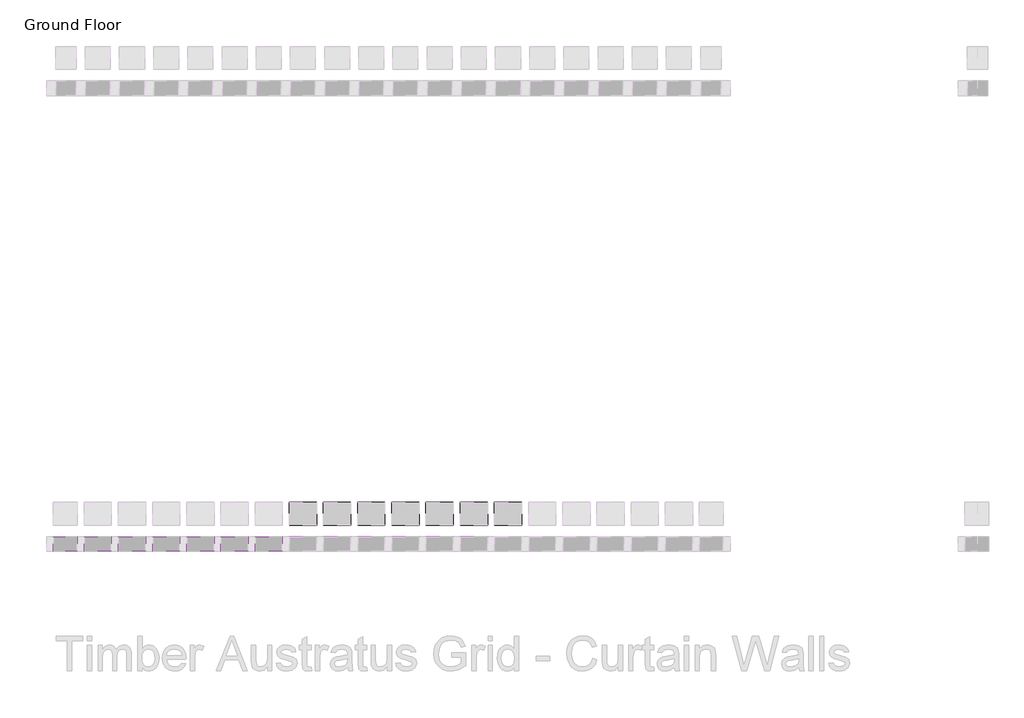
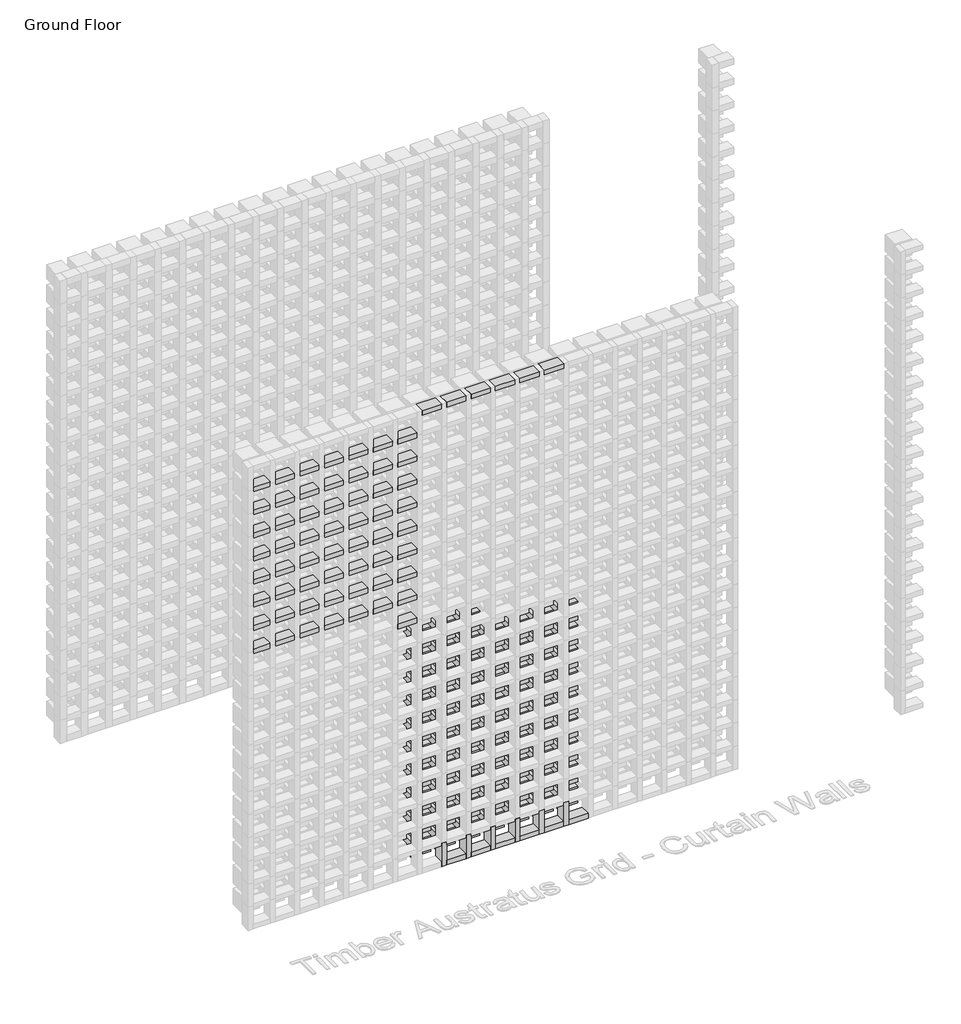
# One storey, part 49 of 350: 75 members, 66 plates.
"""IFC4 building model written with IfcOpenShell, lengths in millimetres."""

from ifc_helpers import new_model, si_unit, origin, place, context, project, spatial, transform, mapped, element, save
from components import rectangular_mullion_1c916715, rectangular_mullion_5b501421, rectangular_mullion_51467dcc, rectangular_mullion_d4c9a775, rectangular_mullion_e9e2e2fa, empty_system_panel_empty_a57e421f, empty_system_panel_empty_fe50b430

model = new_model("IFC4")

# Units and contexts
model_context = context("Model", 3, world=origin())
ifc_project = project(units=[si_unit("LENGTHUNIT", "METRE", prefix="MILLI")], contexts=[model_context])

# Site, building, storey
site = spatial("IfcSite", under=ifc_project)
building = spatial("IfcBuilding", under=site)
storey = spatial("IfcBuildingStorey", under=building, Name="Ground Floor", Elevation=0.0)

# Members
placement = place(None, origin())
rectangular_mullion_shape = rectangular_mullion_1c916715(model_context)
element("IfcMember", 1, ObjectType="Rectangular Mullion : Batten_Timber_Modinex_Austratus_Grid_Fascia_30x65_AlaskanYellowCedar", at=placement, inside=storey, context=model_context, shape_type="MappedRepresentation", body=[
    mapped(rectangular_mullion_shape, transform((2951.4361642, 38968.2978302, 1650.0), x_axis=(0.0, 0.0, 1.0), y_axis=(0.0, -1.0, 0.0), z_axis=(1.0, 0.0, 0.0))),
])
element("IfcMember", 2, ObjectType="Rectangular Mullion : Batten_Timber_Modinex_Austratus_Grid_Fascia_30x65_AlaskanYellowCedar", at=placement, inside=storey, context=model_context, shape_type="MappedRepresentation", body=[
    mapped(rectangular_mullion_shape, transform((2201.4361642, 38968.2978302, 1800.0), x_axis=(0.0, 0.0, 1.0), y_axis=(0.0, -1.0, 0.0), z_axis=(1.0, 0.0, 0.0))),
])
element("IfcMember", 3, ObjectType="Rectangular Mullion : Batten_Timber_Modinex_Austratus_Grid_Fascia_30x65_AlaskanYellowCedar", at=placement, inside=storey, context=model_context, shape_type="MappedRepresentation", body=[
    mapped(rectangular_mullion_shape, transform((2351.4361642, 38968.2978302, 1800.0), x_axis=(0.0, 0.0, 1.0), y_axis=(0.0, -1.0, 0.0), z_axis=(1.0, 0.0, 0.0))),
])
element("IfcMember", 4, ObjectType="Rectangular Mullion : Batten_Timber_Modinex_Austratus_Grid_Fascia_30x65_AlaskanYellowCedar", at=placement, inside=storey, context=model_context, shape_type="MappedRepresentation", body=[
    mapped(rectangular_mullion_shape, transform((2501.4361642, 38968.2978302, 1800.0), x_axis=(0.0, 0.0, 1.0), y_axis=(0.0, -1.0, 0.0), z_axis=(1.0, 0.0, 0.0))),
])
element("IfcMember", 5, ObjectType="Rectangular Mullion : Batten_Timber_Modinex_Austratus_Grid_Fascia_30x65_AlaskanYellowCedar", at=placement, inside=storey, context=model_context, shape_type="MappedRepresentation", body=[
    mapped(rectangular_mullion_shape, transform((2651.4361642, 38968.2978302, 1800.0), x_axis=(0.0, 0.0, 1.0), y_axis=(0.0, -1.0, 0.0), z_axis=(1.0, 0.0, 0.0))),
])
element("IfcMember", 6, ObjectType="Rectangular Mullion : Batten_Timber_Modinex_Austratus_Grid_Fascia_30x65_AlaskanYellowCedar", at=placement, inside=storey, context=model_context, shape_type="MappedRepresentation", body=[
    mapped(rectangular_mullion_shape, transform((2801.4361642, 38968.2978302, 1800.0), x_axis=(0.0, 0.0, 1.0), y_axis=(0.0, -1.0, 0.0), z_axis=(1.0, 0.0, 0.0))),
])
element("IfcMember", 7, ObjectType="Rectangular Mullion : Batten_Timber_Modinex_Austratus_Grid_Fascia_30x65_AlaskanYellowCedar", at=placement, inside=storey, context=model_context, shape_type="MappedRepresentation", body=[
    mapped(rectangular_mullion_shape, transform((2951.4361642, 38968.2978302, 1800.0), x_axis=(0.0, 0.0, 1.0), y_axis=(0.0, -1.0, 0.0), z_axis=(1.0, 0.0, 0.0))),
])
element("IfcMember", 8, ObjectType="Rectangular Mullion : Batten_Timber_Modinex_Austratus_Grid_Fascia_30x65_AlaskanYellowCedar", at=placement, inside=storey, context=model_context, shape_type="MappedRepresentation", body=[
    mapped(rectangular_mullion_shape, transform((2201.4361642, 38968.2978302, 1950.0), x_axis=(0.0, 0.0, 1.0), y_axis=(0.0, -1.0, 0.0), z_axis=(1.0, 0.0, 0.0))),
])
element("IfcMember", 9, ObjectType="Rectangular Mullion : Batten_Timber_Modinex_Austratus_Grid_Fascia_30x65_AlaskanYellowCedar", at=placement, inside=storey, context=model_context, shape_type="MappedRepresentation", body=[
    mapped(rectangular_mullion_shape, transform((2351.4361642, 38968.2978302, 1950.0), x_axis=(0.0, 0.0, 1.0), y_axis=(0.0, -1.0, 0.0), z_axis=(1.0, 0.0, 0.0))),
])
element("IfcMember", 10, ObjectType="Rectangular Mullion : Batten_Timber_Modinex_Austratus_Grid_Fascia_30x65_AlaskanYellowCedar", at=placement, inside=storey, context=model_context, shape_type="MappedRepresentation", body=[
    mapped(rectangular_mullion_shape, transform((2501.4361642, 38968.2978302, 1950.0), x_axis=(0.0, 0.0, 1.0), y_axis=(0.0, -1.0, 0.0), z_axis=(1.0, 0.0, 0.0))),
])
element("IfcMember", 11, ObjectType="Rectangular Mullion : Batten_Timber_Modinex_Austratus_Grid_Fascia_30x65_AlaskanYellowCedar", at=placement, inside=storey, context=model_context, shape_type="MappedRepresentation", body=[
    mapped(rectangular_mullion_shape, transform((2651.4361642, 38968.2978302, 1950.0), x_axis=(0.0, 0.0, 1.0), y_axis=(0.0, -1.0, 0.0), z_axis=(1.0, 0.0, 0.0))),
])
element("IfcMember", 12, ObjectType="Rectangular Mullion : Batten_Timber_Modinex_Austratus_Grid_Fascia_30x65_AlaskanYellowCedar", at=placement, inside=storey, context=model_context, shape_type="MappedRepresentation", body=[
    mapped(rectangular_mullion_shape, transform((2801.4361642, 38968.2978302, 1950.0), x_axis=(0.0, 0.0, 1.0), y_axis=(0.0, -1.0, 0.0), z_axis=(1.0, 0.0, 0.0))),
])
element("IfcMember", 13, ObjectType="Rectangular Mullion : Batten_Timber_Modinex_Austratus_Grid_Fascia_30x65_AlaskanYellowCedar", at=placement, inside=storey, context=model_context, shape_type="MappedRepresentation", body=[
    mapped(rectangular_mullion_shape, transform((2951.4361642, 38968.2978302, 1950.0), x_axis=(0.0, 0.0, 1.0), y_axis=(0.0, -1.0, 0.0), z_axis=(1.0, 0.0, 0.0))),
])
element("IfcMember", 14, ObjectType="Rectangular Mullion : Batten_Timber_Modinex_Austratus_Grid_Fascia_30x65_AlaskanYellowCedar", at=placement, inside=storey, context=model_context, shape_type="MappedRepresentation", body=[
    mapped(rectangular_mullion_shape, transform((2201.4361642, 38968.2978302, 2100.0), x_axis=(0.0, 0.0, 1.0), y_axis=(0.0, -1.0, 0.0), z_axis=(1.0, 0.0, 0.0))),
])
element("IfcMember", 15, ObjectType="Rectangular Mullion : Batten_Timber_Modinex_Austratus_Grid_Fascia_30x65_AlaskanYellowCedar", at=placement, inside=storey, context=model_context, shape_type="MappedRepresentation", body=[
    mapped(rectangular_mullion_shape, transform((2351.4361642, 38968.2978302, 2100.0), x_axis=(0.0, 0.0, 1.0), y_axis=(0.0, -1.0, 0.0), z_axis=(1.0, 0.0, 0.0))),
])
element("IfcMember", 16, ObjectType="Rectangular Mullion : Batten_Timber_Modinex_Austratus_Grid_Fascia_30x65_AlaskanYellowCedar", at=placement, inside=storey, context=model_context, shape_type="MappedRepresentation", body=[
    mapped(rectangular_mullion_shape, transform((2501.4361642, 38968.2978302, 2100.0), x_axis=(0.0, 0.0, 1.0), y_axis=(0.0, -1.0, 0.0), z_axis=(1.0, 0.0, 0.0))),
])
element("IfcMember", 17, ObjectType="Rectangular Mullion : Batten_Timber_Modinex_Austratus_Grid_Fascia_30x65_AlaskanYellowCedar", at=placement, inside=storey, context=model_context, shape_type="MappedRepresentation", body=[
    mapped(rectangular_mullion_shape, transform((2651.4361642, 38968.2978302, 2100.0), x_axis=(0.0, 0.0, 1.0), y_axis=(0.0, -1.0, 0.0), z_axis=(1.0, 0.0, 0.0))),
])
element("IfcMember", 18, ObjectType="Rectangular Mullion : Batten_Timber_Modinex_Austratus_Grid_Fascia_30x65_AlaskanYellowCedar", at=placement, inside=storey, context=model_context, shape_type="MappedRepresentation", body=[
    mapped(rectangular_mullion_shape, transform((2801.4361642, 38968.2978302, 2100.0), x_axis=(0.0, 0.0, 1.0), y_axis=(0.0, -1.0, 0.0), z_axis=(1.0, 0.0, 0.0))),
])
element("IfcMember", 19, ObjectType="Rectangular Mullion : Batten_Timber_Modinex_Austratus_Grid_Fascia_30x65_AlaskanYellowCedar", at=placement, inside=storey, context=model_context, shape_type="MappedRepresentation", body=[
    mapped(rectangular_mullion_shape, transform((2951.4361642, 38968.2978302, 2100.0), x_axis=(0.0, 0.0, 1.0), y_axis=(0.0, -1.0, 0.0), z_axis=(1.0, 0.0, 0.0))),
])
element("IfcMember", 20, ObjectType="Rectangular Mullion : Batten_Timber_Modinex_Austratus_Grid_Fascia_30x65_AlaskanYellowCedar", at=placement, inside=storey, context=model_context, shape_type="MappedRepresentation", body=[
    mapped(rectangular_mullion_shape, transform((2201.4361642, 38968.2978302, 2250.0), x_axis=(0.0, 0.0, 1.0), y_axis=(0.0, -1.0, 0.0), z_axis=(1.0, 0.0, 0.0))),
])
element("IfcMember", 21, ObjectType="Rectangular Mullion : Batten_Timber_Modinex_Austratus_Grid_Fascia_30x65_AlaskanYellowCedar", at=placement, inside=storey, context=model_context, shape_type="MappedRepresentation", body=[
    mapped(rectangular_mullion_shape, transform((2351.4361642, 38968.2978302, 2250.0), x_axis=(0.0, 0.0, 1.0), y_axis=(0.0, -1.0, 0.0), z_axis=(1.0, 0.0, 0.0))),
])
element("IfcMember", 22, ObjectType="Rectangular Mullion : Batten_Timber_Modinex_Austratus_Grid_Fascia_30x65_AlaskanYellowCedar", at=placement, inside=storey, context=model_context, shape_type="MappedRepresentation", body=[
    mapped(rectangular_mullion_shape, transform((2501.4361642, 38968.2978302, 2250.0), x_axis=(0.0, 0.0, 1.0), y_axis=(0.0, -1.0, 0.0), z_axis=(1.0, 0.0, 0.0))),
])
element("IfcMember", 23, ObjectType="Rectangular Mullion : Batten_Timber_Modinex_Austratus_Grid_Fascia_30x65_AlaskanYellowCedar", at=placement, inside=storey, context=model_context, shape_type="MappedRepresentation", body=[
    mapped(rectangular_mullion_shape, transform((2651.4361642, 38968.2978302, 2250.0), x_axis=(0.0, 0.0, 1.0), y_axis=(0.0, -1.0, 0.0), z_axis=(1.0, 0.0, 0.0))),
])
element("IfcMember", 24, ObjectType="Rectangular Mullion : Batten_Timber_Modinex_Austratus_Grid_Fascia_30x65_AlaskanYellowCedar", at=placement, inside=storey, context=model_context, shape_type="MappedRepresentation", body=[
    mapped(rectangular_mullion_shape, transform((2801.4361642, 38968.2978302, 2250.0), x_axis=(0.0, 0.0, 1.0), y_axis=(0.0, -1.0, 0.0), z_axis=(1.0, 0.0, 0.0))),
])
element("IfcMember", 25, ObjectType="Rectangular Mullion : Batten_Timber_Modinex_Austratus_Grid_Fascia_30x65_AlaskanYellowCedar", at=placement, inside=storey, context=model_context, shape_type="MappedRepresentation", body=[
    mapped(rectangular_mullion_shape, transform((2951.4361642, 38968.2978302, 2250.0), x_axis=(0.0, 0.0, 1.0), y_axis=(0.0, -1.0, 0.0), z_axis=(1.0, 0.0, 0.0))),
])
element("IfcMember", 26, ObjectType="Rectangular Mullion : Batten_Timber_Modinex_Austratus_Grid_Fascia_30x65_AlaskanYellowCedar", at=placement, inside=storey, context=model_context, shape_type="MappedRepresentation", body=[
    mapped(rectangular_mullion_shape, transform((2201.4361642, 38968.2978302, 2400.0), x_axis=(0.0, 0.0, 1.0), y_axis=(0.0, -1.0, 0.0), z_axis=(1.0, 0.0, 0.0))),
])
element("IfcMember", 27, ObjectType="Rectangular Mullion : Batten_Timber_Modinex_Austratus_Grid_Fascia_30x65_AlaskanYellowCedar", at=placement, inside=storey, context=model_context, shape_type="MappedRepresentation", body=[
    mapped(rectangular_mullion_shape, transform((2351.4361642, 38968.2978302, 2400.0), x_axis=(0.0, 0.0, 1.0), y_axis=(0.0, -1.0, 0.0), z_axis=(1.0, 0.0, 0.0))),
])
element("IfcMember", 28, ObjectType="Rectangular Mullion : Batten_Timber_Modinex_Austratus_Grid_Fascia_30x65_AlaskanYellowCedar", at=placement, inside=storey, context=model_context, shape_type="MappedRepresentation", body=[
    mapped(rectangular_mullion_shape, transform((2501.4361642, 38968.2978302, 2400.0), x_axis=(0.0, 0.0, 1.0), y_axis=(0.0, -1.0, 0.0), z_axis=(1.0, 0.0, 0.0))),
])
element("IfcMember", 29, ObjectType="Rectangular Mullion : Batten_Timber_Modinex_Austratus_Grid_Fascia_30x65_AlaskanYellowCedar", at=placement, inside=storey, context=model_context, shape_type="MappedRepresentation", body=[
    mapped(rectangular_mullion_shape, transform((2651.4361642, 38968.2978302, 2400.0), x_axis=(0.0, 0.0, 1.0), y_axis=(0.0, -1.0, 0.0), z_axis=(1.0, 0.0, 0.0))),
])
element("IfcMember", 30, ObjectType="Rectangular Mullion : Batten_Timber_Modinex_Austratus_Grid_Fascia_30x65_AlaskanYellowCedar", at=placement, inside=storey, context=model_context, shape_type="MappedRepresentation", body=[
    mapped(rectangular_mullion_shape, transform((2801.4361642, 38968.2978302, 2400.0), x_axis=(0.0, 0.0, 1.0), y_axis=(0.0, -1.0, 0.0), z_axis=(1.0, 0.0, 0.0))),
])
element("IfcMember", 31, ObjectType="Rectangular Mullion : Batten_Timber_Modinex_Austratus_Grid_Fascia_30x65_AlaskanYellowCedar", at=placement, inside=storey, context=model_context, shape_type="MappedRepresentation", body=[
    mapped(rectangular_mullion_shape, transform((2951.4361642, 38968.2978302, 2400.0), x_axis=(0.0, 0.0, 1.0), y_axis=(0.0, -1.0, 0.0), z_axis=(1.0, 0.0, 0.0))),
])
element("IfcMember", 32, ObjectType="Rectangular Mullion : Batten_Timber_Modinex_Austratus_Grid_Fascia_30x65_AlaskanYellowCedar", at=placement, inside=storey, context=model_context, shape_type="MappedRepresentation", body=[
    mapped(rectangular_mullion_shape, transform((2201.4361642, 38968.2978302, 2550.0), x_axis=(0.0, 0.0, 1.0), y_axis=(0.0, -1.0, 0.0), z_axis=(1.0, 0.0, 0.0))),
])
element("IfcMember", 33, ObjectType="Rectangular Mullion : Batten_Timber_Modinex_Austratus_Grid_Fascia_30x65_AlaskanYellowCedar", at=placement, inside=storey, context=model_context, shape_type="MappedRepresentation", body=[
    mapped(rectangular_mullion_shape, transform((2351.4361642, 38968.2978302, 2550.0), x_axis=(0.0, 0.0, 1.0), y_axis=(0.0, -1.0, 0.0), z_axis=(1.0, 0.0, 0.0))),
])
element("IfcMember", 34, ObjectType="Rectangular Mullion : Batten_Timber_Modinex_Austratus_Grid_Fascia_30x65_AlaskanYellowCedar", at=placement, inside=storey, context=model_context, shape_type="MappedRepresentation", body=[
    mapped(rectangular_mullion_shape, transform((2501.4361642, 38968.2978302, 2550.0), x_axis=(0.0, 0.0, 1.0), y_axis=(0.0, -1.0, 0.0), z_axis=(1.0, 0.0, 0.0))),
])
element("IfcMember", 35, ObjectType="Rectangular Mullion : Batten_Timber_Modinex_Austratus_Grid_Fascia_30x65_AlaskanYellowCedar", at=placement, inside=storey, context=model_context, shape_type="MappedRepresentation", body=[
    mapped(rectangular_mullion_shape, transform((2651.4361642, 38968.2978302, 2550.0), x_axis=(0.0, 0.0, 1.0), y_axis=(0.0, -1.0, 0.0), z_axis=(1.0, 0.0, 0.0))),
])
element("IfcMember", 36, ObjectType="Rectangular Mullion : Batten_Timber_Modinex_Austratus_Grid_Fascia_30x65_AlaskanYellowCedar", at=placement, inside=storey, context=model_context, shape_type="MappedRepresentation", body=[
    mapped(rectangular_mullion_shape, transform((2801.4361642, 38968.2978302, 2550.0), x_axis=(0.0, 0.0, 1.0), y_axis=(0.0, -1.0, 0.0), z_axis=(1.0, 0.0, 0.0))),
])
element("IfcMember", 37, ObjectType="Rectangular Mullion : Batten_Timber_Modinex_Austratus_Grid_Fascia_30x65_AlaskanYellowCedar", at=placement, inside=storey, context=model_context, shape_type="MappedRepresentation", body=[
    mapped(rectangular_mullion_shape, transform((2951.4361642, 38968.2978302, 2550.0), x_axis=(0.0, 0.0, 1.0), y_axis=(0.0, -1.0, 0.0), z_axis=(1.0, 0.0, 0.0))),
])
element("IfcMember", 38, ObjectType="Rectangular Mullion : Batten_Timber_Modinex_Austratus_Grid_Fascia_30x65_AlaskanYellowCedar", at=placement, inside=storey, context=model_context, shape_type="MappedRepresentation", body=[
    mapped(rectangular_mullion_shape, transform((2201.4361642, 38968.2978302, 2700.0), x_axis=(0.0, 0.0, 1.0), y_axis=(0.0, -1.0, 0.0), z_axis=(1.0, 0.0, 0.0))),
])
element("IfcMember", 39, ObjectType="Rectangular Mullion : Batten_Timber_Modinex_Austratus_Grid_Fascia_30x65_AlaskanYellowCedar", at=placement, inside=storey, context=model_context, shape_type="MappedRepresentation", body=[
    mapped(rectangular_mullion_shape, transform((2351.4361642, 38968.2978302, 2700.0), x_axis=(0.0, 0.0, 1.0), y_axis=(0.0, -1.0, 0.0), z_axis=(1.0, 0.0, 0.0))),
])
element("IfcMember", 40, ObjectType="Rectangular Mullion : Batten_Timber_Modinex_Austratus_Grid_Fascia_30x65_AlaskanYellowCedar", at=placement, inside=storey, context=model_context, shape_type="MappedRepresentation", body=[
    mapped(rectangular_mullion_shape, transform((2501.4361642, 38968.2978302, 2700.0), x_axis=(0.0, 0.0, 1.0), y_axis=(0.0, -1.0, 0.0), z_axis=(1.0, 0.0, 0.0))),
])
element("IfcMember", 41, ObjectType="Rectangular Mullion : Batten_Timber_Modinex_Austratus_Grid_Fascia_30x65_AlaskanYellowCedar", at=placement, inside=storey, context=model_context, shape_type="MappedRepresentation", body=[
    mapped(rectangular_mullion_shape, transform((2651.4361642, 38968.2978302, 2700.0), x_axis=(0.0, 0.0, 1.0), y_axis=(0.0, -1.0, 0.0), z_axis=(1.0, 0.0, 0.0))),
])
element("IfcMember", 42, ObjectType="Rectangular Mullion : Batten_Timber_Modinex_Austratus_Grid_Fascia_30x65_AlaskanYellowCedar", at=placement, inside=storey, context=model_context, shape_type="MappedRepresentation", body=[
    mapped(rectangular_mullion_shape, transform((2801.4361642, 38968.2978302, 2700.0), x_axis=(0.0, 0.0, 1.0), y_axis=(0.0, -1.0, 0.0), z_axis=(1.0, 0.0, 0.0))),
])
element("IfcMember", 43, ObjectType="Rectangular Mullion : Batten_Timber_Modinex_Austratus_Grid_Fascia_30x65_AlaskanYellowCedar", at=placement, inside=storey, context=model_context, shape_type="MappedRepresentation", body=[
    mapped(rectangular_mullion_shape, transform((2951.4361642, 38968.2978302, 2700.0), x_axis=(0.0, 0.0, 1.0), y_axis=(0.0, -1.0, 0.0), z_axis=(1.0, 0.0, 0.0))),
])
element("IfcMember", 44, ObjectType="Rectangular Mullion : Batten_Timber_Modinex_Austratus_Grid_Fascia_30x65_AlaskanYellowCedar", at=placement, inside=storey, context=model_context, shape_type="MappedRepresentation", body=[
    mapped(rectangular_mullion_shape, transform((2201.4361642, 38968.2978302, 2850.0), x_axis=(0.0, 0.0, 1.0), y_axis=(0.0, -1.0, 0.0), z_axis=(1.0, 0.0, 0.0))),
])
element("IfcMember", 45, ObjectType="Rectangular Mullion : Batten_Timber_Modinex_Austratus_Grid_Fascia_30x65_AlaskanYellowCedar", at=placement, inside=storey, context=model_context, shape_type="MappedRepresentation", body=[
    mapped(rectangular_mullion_shape, transform((2351.4361642, 38968.2978302, 2850.0), x_axis=(0.0, 0.0, 1.0), y_axis=(0.0, -1.0, 0.0), z_axis=(1.0, 0.0, 0.0))),
])
element("IfcMember", 46, ObjectType="Rectangular Mullion : Batten_Timber_Modinex_Austratus_Grid_Fascia_30x65_AlaskanYellowCedar", at=placement, inside=storey, context=model_context, shape_type="MappedRepresentation", body=[
    mapped(rectangular_mullion_shape, transform((2501.4361642, 38968.2978302, 2850.0), x_axis=(0.0, 0.0, 1.0), y_axis=(0.0, -1.0, 0.0), z_axis=(1.0, 0.0, 0.0))),
])
element("IfcMember", 47, ObjectType="Rectangular Mullion : Batten_Timber_Modinex_Austratus_Grid_Fascia_30x65_AlaskanYellowCedar", at=placement, inside=storey, context=model_context, shape_type="MappedRepresentation", body=[
    mapped(rectangular_mullion_shape, transform((2651.4361642, 38968.2978302, 2850.0), x_axis=(0.0, 0.0, 1.0), y_axis=(0.0, -1.0, 0.0), z_axis=(1.0, 0.0, 0.0))),
])
element("IfcMember", 48, ObjectType="Rectangular Mullion : Batten_Timber_Modinex_Austratus_Grid_Fascia_30x65_AlaskanYellowCedar", at=placement, inside=storey, context=model_context, shape_type="MappedRepresentation", body=[
    mapped(rectangular_mullion_shape, transform((2801.4361642, 38968.2978302, 2850.0), x_axis=(0.0, 0.0, 1.0), y_axis=(0.0, -1.0, 0.0), z_axis=(1.0, 0.0, 0.0))),
])
element("IfcMember", 49, ObjectType="Rectangular Mullion : Batten_Timber_Modinex_Austratus_Grid_Fascia_30x65_AlaskanYellowCedar", at=placement, inside=storey, context=model_context, shape_type="MappedRepresentation", body=[
    mapped(rectangular_mullion_shape, transform((2951.4361642, 38968.2978302, 2850.0), x_axis=(0.0, 0.0, 1.0), y_axis=(0.0, -1.0, 0.0), z_axis=(1.0, 0.0, 0.0))),
])
rectangular_mullion_2_shape = rectangular_mullion_5b501421(model_context)
element("IfcMember", 50, ObjectType="Rectangular Mullion : Batten_Timber_Modinex_Austratus_Grid_Fascia_30x65_AlaskanYellowCedar", at=placement, inside=storey, context=model_context, shape_type="MappedRepresentation", body=[
    mapped(rectangular_mullion_2_shape, transform((3116.4361642, 38968.2978302, 0.0), x_axis=(1.0, 0.0, 0.0), y_axis=(0.0, -1.0, 0.0), z_axis=(0.0, 0.0, -1.0))),
])
element("IfcMember", 51, ObjectType="Rectangular Mullion : Batten_Timber_Modinex_Austratus_Grid_Fascia_30x65_AlaskanYellowCedar", at=placement, inside=storey, context=model_context, shape_type="MappedRepresentation", body=[
    mapped(rectangular_mullion_2_shape, transform((3266.4361642, 38968.2978302, 0.0), x_axis=(1.0, 0.0, 0.0), y_axis=(0.0, -1.0, 0.0), z_axis=(0.0, 0.0, -1.0))),
])
element("IfcMember", 52, ObjectType="Rectangular Mullion : Batten_Timber_Modinex_Austratus_Grid_Fascia_30x65_AlaskanYellowCedar", at=placement, inside=storey, context=model_context, shape_type="MappedRepresentation", body=[
    mapped(rectangular_mullion_2_shape, transform((3416.4361642, 38968.2978302, 0.0), x_axis=(1.0, 0.0, 0.0), y_axis=(0.0, -1.0, 0.0), z_axis=(0.0, 0.0, -1.0))),
])
element("IfcMember", 53, ObjectType="Rectangular Mullion : Batten_Timber_Modinex_Austratus_Grid_Fascia_30x65_AlaskanYellowCedar", at=placement, inside=storey, context=model_context, shape_type="MappedRepresentation", body=[
    mapped(rectangular_mullion_2_shape, transform((3566.4361642, 38968.2978302, 0.0), x_axis=(1.0, 0.0, 0.0), y_axis=(0.0, -1.0, 0.0), z_axis=(0.0, 0.0, -1.0))),
])
element("IfcMember", 54, ObjectType="Rectangular Mullion : Batten_Timber_Modinex_Austratus_Grid_Fascia_30x65_AlaskanYellowCedar", at=placement, inside=storey, context=model_context, shape_type="MappedRepresentation", body=[
    mapped(rectangular_mullion_2_shape, transform((3716.4361642, 38968.2978302, 0.0), x_axis=(1.0, 0.0, 0.0), y_axis=(0.0, -1.0, 0.0), z_axis=(0.0, 0.0, -1.0))),
])
element("IfcMember", 55, ObjectType="Rectangular Mullion : Batten_Timber_Modinex_Austratus_Grid_Fascia_30x65_AlaskanYellowCedar", at=placement, inside=storey, context=model_context, shape_type="MappedRepresentation", body=[
    mapped(rectangular_mullion_2_shape, transform((3866.4361642, 38968.2978302, 0.0), x_axis=(1.0, 0.0, 0.0), y_axis=(0.0, -1.0, 0.0), z_axis=(0.0, 0.0, -1.0))),
])
rectangular_mullion_3_shape = rectangular_mullion_51467dcc(model_context)
element("IfcMember", 56, ObjectType="Rectangular Mullion : Batten_Timber_Modinex_Austratus_Grid_Fascia_30x65_AlaskanYellowCedar", at=placement, inside=storey, context=model_context, shape_type="MappedRepresentation", body=[
    mapped(rectangular_mullion_3_shape, transform((3101.4361642, 38968.2978302, 3000.0), x_axis=(0.0, 0.0, 1.0), y_axis=(0.0, -1.0, 0.0), z_axis=(1.0, 0.0, 0.0))),
])
element("IfcMember", 57, ObjectType="Rectangular Mullion : Batten_Timber_Modinex_Austratus_Grid_Fascia_30x65_AlaskanYellowCedar", at=placement, inside=storey, context=model_context, shape_type="MappedRepresentation", body=[
    mapped(rectangular_mullion_3_shape, transform((3251.4361642, 38968.2978302, 3000.0), x_axis=(0.0, 0.0, 1.0), y_axis=(0.0, -1.0, 0.0), z_axis=(1.0, 0.0, 0.0))),
])
element("IfcMember", 58, ObjectType="Rectangular Mullion : Batten_Timber_Modinex_Austratus_Grid_Fascia_30x65_AlaskanYellowCedar", at=placement, inside=storey, context=model_context, shape_type="MappedRepresentation", body=[
    mapped(rectangular_mullion_3_shape, transform((3401.4361642, 38968.2978302, 3000.0), x_axis=(0.0, 0.0, 1.0), y_axis=(0.0, -1.0, 0.0), z_axis=(1.0, 0.0, 0.0))),
])
element("IfcMember", 59, ObjectType="Rectangular Mullion : Batten_Timber_Modinex_Austratus_Grid_Fascia_30x65_AlaskanYellowCedar", at=placement, inside=storey, context=model_context, shape_type="MappedRepresentation", body=[
    mapped(rectangular_mullion_3_shape, transform((3551.4361642, 38968.2978302, 3000.0), x_axis=(0.0, 0.0, 1.0), y_axis=(0.0, -1.0, 0.0), z_axis=(1.0, 0.0, 0.0))),
])
element("IfcMember", 60, ObjectType="Rectangular Mullion : Batten_Timber_Modinex_Austratus_Grid_Fascia_30x65_AlaskanYellowCedar", at=placement, inside=storey, context=model_context, shape_type="MappedRepresentation", body=[
    mapped(rectangular_mullion_3_shape, transform((3701.4361642, 38968.2978302, 3000.0), x_axis=(0.0, 0.0, 1.0), y_axis=(0.0, -1.0, 0.0), z_axis=(1.0, 0.0, 0.0))),
])
element("IfcMember", 61, ObjectType="Rectangular Mullion : Batten_Timber_Modinex_Austratus_Grid_Fascia_30x65_AlaskanYellowCedar", at=placement, inside=storey, context=model_context, shape_type="MappedRepresentation", body=[
    mapped(rectangular_mullion_3_shape, transform((3851.4361642, 38968.2978302, 3000.0), x_axis=(0.0, 0.0, 1.0), y_axis=(0.0, -1.0, 0.0), z_axis=(1.0, 0.0, 0.0))),
])
rectangular_mullion_4_shape = rectangular_mullion_d4c9a775(model_context)
element("IfcMember", 62, ObjectType="Rectangular Mullion : Batten_Timber_Modinex_Austratus_Grid_Fascia_30x65_AlaskanYellowCedar", at=placement, inside=storey, context=model_context, shape_type="MappedRepresentation", body=[
    mapped(rectangular_mullion_4_shape, transform((3131.4361642, 38968.2978302, 0.0), x_axis=(0.0, 0.0, -1.0), y_axis=(0.0, -1.0, 0.0), z_axis=(-1.0, 0.0, 0.0))),
])
element("IfcMember", 63, ObjectType="Rectangular Mullion : Batten_Timber_Modinex_Austratus_Grid_Fascia_30x65_AlaskanYellowCedar", at=placement, inside=storey, context=model_context, shape_type="MappedRepresentation", body=[
    mapped(rectangular_mullion_4_shape, transform((3281.4361642, 38968.2978302, 0.0), x_axis=(0.0, 0.0, -1.0), y_axis=(0.0, -1.0, 0.0), z_axis=(-1.0, 0.0, 0.0))),
])
element("IfcMember", 64, ObjectType="Rectangular Mullion : Batten_Timber_Modinex_Austratus_Grid_Fascia_30x65_AlaskanYellowCedar", at=placement, inside=storey, context=model_context, shape_type="MappedRepresentation", body=[
    mapped(rectangular_mullion_4_shape, transform((3431.4361642, 38968.2978302, 0.0), x_axis=(0.0, 0.0, -1.0), y_axis=(0.0, -1.0, 0.0), z_axis=(-1.0, 0.0, 0.0))),
])
element("IfcMember", 65, ObjectType="Rectangular Mullion : Batten_Timber_Modinex_Austratus_Grid_Fascia_30x65_AlaskanYellowCedar", at=placement, inside=storey, context=model_context, shape_type="MappedRepresentation", body=[
    mapped(rectangular_mullion_4_shape, transform((3581.4361642, 38968.2978302, 0.0), x_axis=(0.0, 0.0, -1.0), y_axis=(0.0, -1.0, 0.0), z_axis=(-1.0, 0.0, 0.0))),
])
element("IfcMember", 66, ObjectType="Rectangular Mullion : Batten_Timber_Modinex_Austratus_Grid_Fascia_30x65_AlaskanYellowCedar", at=placement, inside=storey, context=model_context, shape_type="MappedRepresentation", body=[
    mapped(rectangular_mullion_4_shape, transform((3731.4361642, 38968.2978302, 0.0), x_axis=(0.0, 0.0, -1.0), y_axis=(0.0, -1.0, 0.0), z_axis=(-1.0, 0.0, 0.0))),
])
element("IfcMember", 67, ObjectType="Rectangular Mullion : Batten_Timber_Modinex_Austratus_Grid_Fascia_30x65_AlaskanYellowCedar", at=placement, inside=storey, context=model_context, shape_type="MappedRepresentation", body=[
    mapped(rectangular_mullion_4_shape, transform((3881.4361642, 38968.2978302, 0.0), x_axis=(0.0, 0.0, -1.0), y_axis=(0.0, -1.0, 0.0), z_axis=(-1.0, 0.0, 0.0))),
])
rectangular_mullion_5_shape = rectangular_mullion_e9e2e2fa(model_context)
element("IfcMember", 68, ObjectType="Rectangular Mullion : Batten_Timber_Modinex_Austratus_Grid_Fascia_30x65_AlaskanYellowCedar", at=placement, inside=storey, context=model_context, shape_type="MappedRepresentation", body=[
    mapped(rectangular_mullion_5_shape, transform((2051.4361642, 38968.2978302, 1800.0), x_axis=(0.0, 0.0, 1.0), y_axis=(0.0, -1.0, 0.0), z_axis=(1.0, 0.0, 0.0))),
])
element("IfcMember", 69, ObjectType="Rectangular Mullion : Batten_Timber_Modinex_Austratus_Grid_Fascia_30x65_AlaskanYellowCedar", at=placement, inside=storey, context=model_context, shape_type="MappedRepresentation", body=[
    mapped(rectangular_mullion_5_shape, transform((2051.4361642, 38968.2978302, 1950.0), x_axis=(0.0, 0.0, 1.0), y_axis=(0.0, -1.0, 0.0), z_axis=(1.0, 0.0, 0.0))),
])
element("IfcMember", 70, ObjectType="Rectangular Mullion : Batten_Timber_Modinex_Austratus_Grid_Fascia_30x65_AlaskanYellowCedar", at=placement, inside=storey, context=model_context, shape_type="MappedRepresentation", body=[
    mapped(rectangular_mullion_5_shape, transform((2051.4361642, 38968.2978302, 2100.0), x_axis=(0.0, 0.0, 1.0), y_axis=(0.0, -1.0, 0.0), z_axis=(1.0, 0.0, 0.0))),
])
element("IfcMember", 71, ObjectType="Rectangular Mullion : Batten_Timber_Modinex_Austratus_Grid_Fascia_30x65_AlaskanYellowCedar", at=placement, inside=storey, context=model_context, shape_type="MappedRepresentation", body=[
    mapped(rectangular_mullion_5_shape, transform((2051.4361642, 38968.2978302, 2250.0), x_axis=(0.0, 0.0, 1.0), y_axis=(0.0, -1.0, 0.0), z_axis=(1.0, 0.0, 0.0))),
])
element("IfcMember", 72, ObjectType="Rectangular Mullion : Batten_Timber_Modinex_Austratus_Grid_Fascia_30x65_AlaskanYellowCedar", at=placement, inside=storey, context=model_context, shape_type="MappedRepresentation", body=[
    mapped(rectangular_mullion_5_shape, transform((2051.4361642, 38968.2978302, 2400.0), x_axis=(0.0, 0.0, 1.0), y_axis=(0.0, -1.0, 0.0), z_axis=(1.0, 0.0, 0.0))),
])
element("IfcMember", 73, ObjectType="Rectangular Mullion : Batten_Timber_Modinex_Austratus_Grid_Fascia_30x65_AlaskanYellowCedar", at=placement, inside=storey, context=model_context, shape_type="MappedRepresentation", body=[
    mapped(rectangular_mullion_5_shape, transform((2051.4361642, 38968.2978302, 2550.0), x_axis=(0.0, 0.0, 1.0), y_axis=(0.0, -1.0, 0.0), z_axis=(1.0, 0.0, 0.0))),
])
element("IfcMember", 74, ObjectType="Rectangular Mullion : Batten_Timber_Modinex_Austratus_Grid_Fascia_30x65_AlaskanYellowCedar", at=placement, inside=storey, context=model_context, shape_type="MappedRepresentation", body=[
    mapped(rectangular_mullion_5_shape, transform((2051.4361642, 38968.2978302, 2700.0), x_axis=(0.0, 0.0, 1.0), y_axis=(0.0, -1.0, 0.0), z_axis=(1.0, 0.0, 0.0))),
])
element("IfcMember", 75, ObjectType="Rectangular Mullion : Batten_Timber_Modinex_Austratus_Grid_Fascia_30x65_AlaskanYellowCedar", at=placement, inside=storey, context=model_context, shape_type="MappedRepresentation", body=[
    mapped(rectangular_mullion_5_shape, transform((2051.4361642, 38968.2978302, 2850.0), x_axis=(0.0, 0.0, 1.0), y_axis=(0.0, -1.0, 0.0), z_axis=(1.0, 0.0, 0.0))),
])

# Plates
empty_system_panel_empty_shape = empty_system_panel_empty_a57e421f(model_context)
element("IfcPlate", 76, ObjectType="Empty System Panel : Empty", at=placement, inside=storey, context=model_context, shape_type="MappedRepresentation", body=[
    mapped(empty_system_panel_empty_shape, transform((3041.4361642, 38968.2978302, 165.0), x_axis=(1.0, 0.0, 0.0), y_axis=(0.0, 1.0, 0.0), z_axis=(0.0, 0.0, 1.0))),
])
element("IfcPlate", 77, ObjectType="Empty System Panel : Empty", at=placement, inside=storey, context=model_context, shape_type="MappedRepresentation", body=[
    mapped(empty_system_panel_empty_shape, transform((3191.4361642, 38968.2978302, 165.0), x_axis=(1.0, 0.0, 0.0), y_axis=(0.0, 1.0, 0.0), z_axis=(0.0, 0.0, 1.0))),
])
element("IfcPlate", 78, ObjectType="Empty System Panel : Empty", at=placement, inside=storey, context=model_context, shape_type="MappedRepresentation", body=[
    mapped(empty_system_panel_empty_shape, transform((3341.4361642, 38968.2978302, 165.0), x_axis=(1.0, 0.0, 0.0), y_axis=(0.0, 1.0, 0.0), z_axis=(0.0, 0.0, 1.0))),
])
element("IfcPlate", 79, ObjectType="Empty System Panel : Empty", at=placement, inside=storey, context=model_context, shape_type="MappedRepresentation", body=[
    mapped(empty_system_panel_empty_shape, transform((3491.4361642, 38968.2978302, 165.0), x_axis=(1.0, 0.0, 0.0), y_axis=(0.0, 1.0, 0.0), z_axis=(0.0, 0.0, 1.0))),
])
element("IfcPlate", 80, ObjectType="Empty System Panel : Empty", at=placement, inside=storey, context=model_context, shape_type="MappedRepresentation", body=[
    mapped(empty_system_panel_empty_shape, transform((3641.4361642, 38968.2978302, 165.0), x_axis=(1.0, 0.0, 0.0), y_axis=(0.0, 1.0, 0.0), z_axis=(0.0, 0.0, 1.0))),
])
element("IfcPlate", 81, ObjectType="Empty System Panel : Empty", at=placement, inside=storey, context=model_context, shape_type="MappedRepresentation", body=[
    mapped(empty_system_panel_empty_shape, transform((3791.4361642, 38968.2978302, 165.0), x_axis=(1.0, 0.0, 0.0), y_axis=(0.0, 1.0, 0.0), z_axis=(0.0, 0.0, 1.0))),
])
element("IfcPlate", 82, ObjectType="Empty System Panel : Empty", at=placement, inside=storey, context=model_context, shape_type="MappedRepresentation", body=[
    mapped(empty_system_panel_empty_shape, transform((3941.4361642, 38968.2978302, 165.0), x_axis=(1.0, 0.0, 0.0), y_axis=(0.0, 1.0, 0.0), z_axis=(0.0, 0.0, 1.0))),
])
element("IfcPlate", 83, ObjectType="Empty System Panel : Empty", at=placement, inside=storey, context=model_context, shape_type="MappedRepresentation", body=[
    mapped(empty_system_panel_empty_shape, transform((3041.4361642, 38968.2978302, 315.0), x_axis=(1.0, 0.0, 0.0), y_axis=(0.0, 1.0, 0.0), z_axis=(0.0, 0.0, 1.0))),
])
element("IfcPlate", 84, ObjectType="Empty System Panel : Empty", at=placement, inside=storey, context=model_context, shape_type="MappedRepresentation", body=[
    mapped(empty_system_panel_empty_shape, transform((3191.4361642, 38968.2978302, 315.0), x_axis=(1.0, 0.0, 0.0), y_axis=(0.0, 1.0, 0.0), z_axis=(0.0, 0.0, 1.0))),
])
element("IfcPlate", 85, ObjectType="Empty System Panel : Empty", at=placement, inside=storey, context=model_context, shape_type="MappedRepresentation", body=[
    mapped(empty_system_panel_empty_shape, transform((3341.4361642, 38968.2978302, 315.0), x_axis=(1.0, 0.0, 0.0), y_axis=(0.0, 1.0, 0.0), z_axis=(0.0, 0.0, 1.0))),
])
element("IfcPlate", 86, ObjectType="Empty System Panel : Empty", at=placement, inside=storey, context=model_context, shape_type="MappedRepresentation", body=[
    mapped(empty_system_panel_empty_shape, transform((3491.4361642, 38968.2978302, 315.0), x_axis=(1.0, 0.0, 0.0), y_axis=(0.0, 1.0, 0.0), z_axis=(0.0, 0.0, 1.0))),
])
element("IfcPlate", 87, ObjectType="Empty System Panel : Empty", at=placement, inside=storey, context=model_context, shape_type="MappedRepresentation", body=[
    mapped(empty_system_panel_empty_shape, transform((3641.4361642, 38968.2978302, 315.0), x_axis=(1.0, 0.0, 0.0), y_axis=(0.0, 1.0, 0.0), z_axis=(0.0, 0.0, 1.0))),
])
element("IfcPlate", 88, ObjectType="Empty System Panel : Empty", at=placement, inside=storey, context=model_context, shape_type="MappedRepresentation", body=[
    mapped(empty_system_panel_empty_shape, transform((3791.4361642, 38968.2978302, 315.0), x_axis=(1.0, 0.0, 0.0), y_axis=(0.0, 1.0, 0.0), z_axis=(0.0, 0.0, 1.0))),
])
element("IfcPlate", 89, ObjectType="Empty System Panel : Empty", at=placement, inside=storey, context=model_context, shape_type="MappedRepresentation", body=[
    mapped(empty_system_panel_empty_shape, transform((3941.4361642, 38968.2978302, 315.0), x_axis=(1.0, 0.0, 0.0), y_axis=(0.0, 1.0, 0.0), z_axis=(0.0, 0.0, 1.0))),
])
element("IfcPlate", 90, ObjectType="Empty System Panel : Empty", at=placement, inside=storey, context=model_context, shape_type="MappedRepresentation", body=[
    mapped(empty_system_panel_empty_shape, transform((3041.4361642, 38968.2978302, 465.0), x_axis=(1.0, 0.0, 0.0), y_axis=(0.0, 1.0, 0.0), z_axis=(0.0, 0.0, 1.0))),
])
element("IfcPlate", 91, ObjectType="Empty System Panel : Empty", at=placement, inside=storey, context=model_context, shape_type="MappedRepresentation", body=[
    mapped(empty_system_panel_empty_shape, transform((3191.4361642, 38968.2978302, 465.0), x_axis=(1.0, 0.0, 0.0), y_axis=(0.0, 1.0, 0.0), z_axis=(0.0, 0.0, 1.0))),
])
element("IfcPlate", 92, ObjectType="Empty System Panel : Empty", at=placement, inside=storey, context=model_context, shape_type="MappedRepresentation", body=[
    mapped(empty_system_panel_empty_shape, transform((3341.4361642, 38968.2978302, 465.0), x_axis=(1.0, 0.0, 0.0), y_axis=(0.0, 1.0, 0.0), z_axis=(0.0, 0.0, 1.0))),
])
element("IfcPlate", 93, ObjectType="Empty System Panel : Empty", at=placement, inside=storey, context=model_context, shape_type="MappedRepresentation", body=[
    mapped(empty_system_panel_empty_shape, transform((3491.4361642, 38968.2978302, 465.0), x_axis=(1.0, 0.0, 0.0), y_axis=(0.0, 1.0, 0.0), z_axis=(0.0, 0.0, 1.0))),
])
element("IfcPlate", 94, ObjectType="Empty System Panel : Empty", at=placement, inside=storey, context=model_context, shape_type="MappedRepresentation", body=[
    mapped(empty_system_panel_empty_shape, transform((3641.4361642, 38968.2978302, 465.0), x_axis=(1.0, 0.0, 0.0), y_axis=(0.0, 1.0, 0.0), z_axis=(0.0, 0.0, 1.0))),
])
element("IfcPlate", 95, ObjectType="Empty System Panel : Empty", at=placement, inside=storey, context=model_context, shape_type="MappedRepresentation", body=[
    mapped(empty_system_panel_empty_shape, transform((3791.4361642, 38968.2978302, 465.0), x_axis=(1.0, 0.0, 0.0), y_axis=(0.0, 1.0, 0.0), z_axis=(0.0, 0.0, 1.0))),
])
element("IfcPlate", 96, ObjectType="Empty System Panel : Empty", at=placement, inside=storey, context=model_context, shape_type="MappedRepresentation", body=[
    mapped(empty_system_panel_empty_shape, transform((3941.4361642, 38968.2978302, 465.0), x_axis=(1.0, 0.0, 0.0), y_axis=(0.0, 1.0, 0.0), z_axis=(0.0, 0.0, 1.0))),
])
element("IfcPlate", 97, ObjectType="Empty System Panel : Empty", at=placement, inside=storey, context=model_context, shape_type="MappedRepresentation", body=[
    mapped(empty_system_panel_empty_shape, transform((3041.4361642, 38968.2978302, 615.0), x_axis=(1.0, 0.0, 0.0), y_axis=(0.0, 1.0, 0.0), z_axis=(0.0, 0.0, 1.0))),
])
element("IfcPlate", 98, ObjectType="Empty System Panel : Empty", at=placement, inside=storey, context=model_context, shape_type="MappedRepresentation", body=[
    mapped(empty_system_panel_empty_shape, transform((3191.4361642, 38968.2978302, 615.0), x_axis=(1.0, 0.0, 0.0), y_axis=(0.0, 1.0, 0.0), z_axis=(0.0, 0.0, 1.0))),
])
element("IfcPlate", 99, ObjectType="Empty System Panel : Empty", at=placement, inside=storey, context=model_context, shape_type="MappedRepresentation", body=[
    mapped(empty_system_panel_empty_shape, transform((3341.4361642, 38968.2978302, 615.0), x_axis=(1.0, 0.0, 0.0), y_axis=(0.0, 1.0, 0.0), z_axis=(0.0, 0.0, 1.0))),
])
element("IfcPlate", 100, ObjectType="Empty System Panel : Empty", at=placement, inside=storey, context=model_context, shape_type="MappedRepresentation", body=[
    mapped(empty_system_panel_empty_shape, transform((3491.4361642, 38968.2978302, 615.0), x_axis=(1.0, 0.0, 0.0), y_axis=(0.0, 1.0, 0.0), z_axis=(0.0, 0.0, 1.0))),
])
element("IfcPlate", 101, ObjectType="Empty System Panel : Empty", at=placement, inside=storey, context=model_context, shape_type="MappedRepresentation", body=[
    mapped(empty_system_panel_empty_shape, transform((3641.4361642, 38968.2978302, 615.0), x_axis=(1.0, 0.0, 0.0), y_axis=(0.0, 1.0, 0.0), z_axis=(0.0, 0.0, 1.0))),
])
element("IfcPlate", 102, ObjectType="Empty System Panel : Empty", at=placement, inside=storey, context=model_context, shape_type="MappedRepresentation", body=[
    mapped(empty_system_panel_empty_shape, transform((3791.4361642, 38968.2978302, 615.0), x_axis=(1.0, 0.0, 0.0), y_axis=(0.0, 1.0, 0.0), z_axis=(0.0, 0.0, 1.0))),
])
element("IfcPlate", 103, ObjectType="Empty System Panel : Empty", at=placement, inside=storey, context=model_context, shape_type="MappedRepresentation", body=[
    mapped(empty_system_panel_empty_shape, transform((3941.4361642, 38968.2978302, 615.0), x_axis=(1.0, 0.0, 0.0), y_axis=(0.0, 1.0, 0.0), z_axis=(0.0, 0.0, 1.0))),
])
element("IfcPlate", 104, ObjectType="Empty System Panel : Empty", at=placement, inside=storey, context=model_context, shape_type="MappedRepresentation", body=[
    mapped(empty_system_panel_empty_shape, transform((3041.4361642, 38968.2978302, 765.0), x_axis=(1.0, 0.0, 0.0), y_axis=(0.0, 1.0, 0.0), z_axis=(0.0, 0.0, 1.0))),
])
element("IfcPlate", 105, ObjectType="Empty System Panel : Empty", at=placement, inside=storey, context=model_context, shape_type="MappedRepresentation", body=[
    mapped(empty_system_panel_empty_shape, transform((3191.4361642, 38968.2978302, 765.0), x_axis=(1.0, 0.0, 0.0), y_axis=(0.0, 1.0, 0.0), z_axis=(0.0, 0.0, 1.0))),
])
element("IfcPlate", 106, ObjectType="Empty System Panel : Empty", at=placement, inside=storey, context=model_context, shape_type="MappedRepresentation", body=[
    mapped(empty_system_panel_empty_shape, transform((3341.4361642, 38968.2978302, 765.0), x_axis=(1.0, 0.0, 0.0), y_axis=(0.0, 1.0, 0.0), z_axis=(0.0, 0.0, 1.0))),
])
element("IfcPlate", 107, ObjectType="Empty System Panel : Empty", at=placement, inside=storey, context=model_context, shape_type="MappedRepresentation", body=[
    mapped(empty_system_panel_empty_shape, transform((3491.4361642, 38968.2978302, 765.0), x_axis=(1.0, 0.0, 0.0), y_axis=(0.0, 1.0, 0.0), z_axis=(0.0, 0.0, 1.0))),
])
element("IfcPlate", 108, ObjectType="Empty System Panel : Empty", at=placement, inside=storey, context=model_context, shape_type="MappedRepresentation", body=[
    mapped(empty_system_panel_empty_shape, transform((3641.4361642, 38968.2978302, 765.0), x_axis=(1.0, 0.0, 0.0), y_axis=(0.0, 1.0, 0.0), z_axis=(0.0, 0.0, 1.0))),
])
element("IfcPlate", 109, ObjectType="Empty System Panel : Empty", at=placement, inside=storey, context=model_context, shape_type="MappedRepresentation", body=[
    mapped(empty_system_panel_empty_shape, transform((3791.4361642, 38968.2978302, 765.0), x_axis=(1.0, 0.0, 0.0), y_axis=(0.0, 1.0, 0.0), z_axis=(0.0, 0.0, 1.0))),
])
element("IfcPlate", 110, ObjectType="Empty System Panel : Empty", at=placement, inside=storey, context=model_context, shape_type="MappedRepresentation", body=[
    mapped(empty_system_panel_empty_shape, transform((3941.4361642, 38968.2978302, 765.0), x_axis=(1.0, 0.0, 0.0), y_axis=(0.0, 1.0, 0.0), z_axis=(0.0, 0.0, 1.0))),
])
element("IfcPlate", 111, ObjectType="Empty System Panel : Empty", at=placement, inside=storey, context=model_context, shape_type="MappedRepresentation", body=[
    mapped(empty_system_panel_empty_shape, transform((3041.4361642, 38968.2978302, 915.0), x_axis=(1.0, 0.0, 0.0), y_axis=(0.0, 1.0, 0.0), z_axis=(0.0, 0.0, 1.0))),
])
element("IfcPlate", 112, ObjectType="Empty System Panel : Empty", at=placement, inside=storey, context=model_context, shape_type="MappedRepresentation", body=[
    mapped(empty_system_panel_empty_shape, transform((3191.4361642, 38968.2978302, 915.0), x_axis=(1.0, 0.0, 0.0), y_axis=(0.0, 1.0, 0.0), z_axis=(0.0, 0.0, 1.0))),
])
element("IfcPlate", 113, ObjectType="Empty System Panel : Empty", at=placement, inside=storey, context=model_context, shape_type="MappedRepresentation", body=[
    mapped(empty_system_panel_empty_shape, transform((3341.4361642, 38968.2978302, 915.0), x_axis=(1.0, 0.0, 0.0), y_axis=(0.0, 1.0, 0.0), z_axis=(0.0, 0.0, 1.0))),
])
element("IfcPlate", 114, ObjectType="Empty System Panel : Empty", at=placement, inside=storey, context=model_context, shape_type="MappedRepresentation", body=[
    mapped(empty_system_panel_empty_shape, transform((3491.4361642, 38968.2978302, 915.0), x_axis=(1.0, 0.0, 0.0), y_axis=(0.0, 1.0, 0.0), z_axis=(0.0, 0.0, 1.0))),
])
element("IfcPlate", 115, ObjectType="Empty System Panel : Empty", at=placement, inside=storey, context=model_context, shape_type="MappedRepresentation", body=[
    mapped(empty_system_panel_empty_shape, transform((3641.4361642, 38968.2978302, 915.0), x_axis=(1.0, 0.0, 0.0), y_axis=(0.0, 1.0, 0.0), z_axis=(0.0, 0.0, 1.0))),
])
element("IfcPlate", 116, ObjectType="Empty System Panel : Empty", at=placement, inside=storey, context=model_context, shape_type="MappedRepresentation", body=[
    mapped(empty_system_panel_empty_shape, transform((3791.4361642, 38968.2978302, 915.0), x_axis=(1.0, 0.0, 0.0), y_axis=(0.0, 1.0, 0.0), z_axis=(0.0, 0.0, 1.0))),
])
element("IfcPlate", 117, ObjectType="Empty System Panel : Empty", at=placement, inside=storey, context=model_context, shape_type="MappedRepresentation", body=[
    mapped(empty_system_panel_empty_shape, transform((3941.4361642, 38968.2978302, 915.0), x_axis=(1.0, 0.0, 0.0), y_axis=(0.0, 1.0, 0.0), z_axis=(0.0, 0.0, 1.0))),
])
element("IfcPlate", 118, ObjectType="Empty System Panel : Empty", at=placement, inside=storey, context=model_context, shape_type="MappedRepresentation", body=[
    mapped(empty_system_panel_empty_shape, transform((3041.4361642, 38968.2978302, 1065.0), x_axis=(1.0, 0.0, 0.0), y_axis=(0.0, 1.0, 0.0), z_axis=(0.0, 0.0, 1.0))),
])
element("IfcPlate", 119, ObjectType="Empty System Panel : Empty", at=placement, inside=storey, context=model_context, shape_type="MappedRepresentation", body=[
    mapped(empty_system_panel_empty_shape, transform((3191.4361642, 38968.2978302, 1065.0), x_axis=(1.0, 0.0, 0.0), y_axis=(0.0, 1.0, 0.0), z_axis=(0.0, 0.0, 1.0))),
])
element("IfcPlate", 120, ObjectType="Empty System Panel : Empty", at=placement, inside=storey, context=model_context, shape_type="MappedRepresentation", body=[
    mapped(empty_system_panel_empty_shape, transform((3341.4361642, 38968.2978302, 1065.0), x_axis=(1.0, 0.0, 0.0), y_axis=(0.0, 1.0, 0.0), z_axis=(0.0, 0.0, 1.0))),
])
element("IfcPlate", 121, ObjectType="Empty System Panel : Empty", at=placement, inside=storey, context=model_context, shape_type="MappedRepresentation", body=[
    mapped(empty_system_panel_empty_shape, transform((3491.4361642, 38968.2978302, 1065.0), x_axis=(1.0, 0.0, 0.0), y_axis=(0.0, 1.0, 0.0), z_axis=(0.0, 0.0, 1.0))),
])
element("IfcPlate", 122, ObjectType="Empty System Panel : Empty", at=placement, inside=storey, context=model_context, shape_type="MappedRepresentation", body=[
    mapped(empty_system_panel_empty_shape, transform((3641.4361642, 38968.2978302, 1065.0), x_axis=(1.0, 0.0, 0.0), y_axis=(0.0, 1.0, 0.0), z_axis=(0.0, 0.0, 1.0))),
])
element("IfcPlate", 123, ObjectType="Empty System Panel : Empty", at=placement, inside=storey, context=model_context, shape_type="MappedRepresentation", body=[
    mapped(empty_system_panel_empty_shape, transform((3791.4361642, 38968.2978302, 1065.0), x_axis=(1.0, 0.0, 0.0), y_axis=(0.0, 1.0, 0.0), z_axis=(0.0, 0.0, 1.0))),
])
element("IfcPlate", 124, ObjectType="Empty System Panel : Empty", at=placement, inside=storey, context=model_context, shape_type="MappedRepresentation", body=[
    mapped(empty_system_panel_empty_shape, transform((3941.4361642, 38968.2978302, 1065.0), x_axis=(1.0, 0.0, 0.0), y_axis=(0.0, 1.0, 0.0), z_axis=(0.0, 0.0, 1.0))),
])
element("IfcPlate", 125, ObjectType="Empty System Panel : Empty", at=placement, inside=storey, context=model_context, shape_type="MappedRepresentation", body=[
    mapped(empty_system_panel_empty_shape, transform((3041.4361642, 38968.2978302, 1215.0), x_axis=(1.0, 0.0, 0.0), y_axis=(0.0, 1.0, 0.0), z_axis=(0.0, 0.0, 1.0))),
])
element("IfcPlate", 126, ObjectType="Empty System Panel : Empty", at=placement, inside=storey, context=model_context, shape_type="MappedRepresentation", body=[
    mapped(empty_system_panel_empty_shape, transform((3191.4361642, 38968.2978302, 1215.0), x_axis=(1.0, 0.0, 0.0), y_axis=(0.0, 1.0, 0.0), z_axis=(0.0, 0.0, 1.0))),
])
element("IfcPlate", 127, ObjectType="Empty System Panel : Empty", at=placement, inside=storey, context=model_context, shape_type="MappedRepresentation", body=[
    mapped(empty_system_panel_empty_shape, transform((3341.4361642, 38968.2978302, 1215.0), x_axis=(1.0, 0.0, 0.0), y_axis=(0.0, 1.0, 0.0), z_axis=(0.0, 0.0, 1.0))),
])
element("IfcPlate", 128, ObjectType="Empty System Panel : Empty", at=placement, inside=storey, context=model_context, shape_type="MappedRepresentation", body=[
    mapped(empty_system_panel_empty_shape, transform((3491.4361642, 38968.2978302, 1215.0), x_axis=(1.0, 0.0, 0.0), y_axis=(0.0, 1.0, 0.0), z_axis=(0.0, 0.0, 1.0))),
])
element("IfcPlate", 129, ObjectType="Empty System Panel : Empty", at=placement, inside=storey, context=model_context, shape_type="MappedRepresentation", body=[
    mapped(empty_system_panel_empty_shape, transform((3641.4361642, 38968.2978302, 1215.0), x_axis=(1.0, 0.0, 0.0), y_axis=(0.0, 1.0, 0.0), z_axis=(0.0, 0.0, 1.0))),
])
element("IfcPlate", 130, ObjectType="Empty System Panel : Empty", at=placement, inside=storey, context=model_context, shape_type="MappedRepresentation", body=[
    mapped(empty_system_panel_empty_shape, transform((3791.4361642, 38968.2978302, 1215.0), x_axis=(1.0, 0.0, 0.0), y_axis=(0.0, 1.0, 0.0), z_axis=(0.0, 0.0, 1.0))),
])
element("IfcPlate", 131, ObjectType="Empty System Panel : Empty", at=placement, inside=storey, context=model_context, shape_type="MappedRepresentation", body=[
    mapped(empty_system_panel_empty_shape, transform((3941.4361642, 38968.2978302, 1215.0), x_axis=(1.0, 0.0, 0.0), y_axis=(0.0, 1.0, 0.0), z_axis=(0.0, 0.0, 1.0))),
])
element("IfcPlate", 132, ObjectType="Empty System Panel : Empty", at=placement, inside=storey, context=model_context, shape_type="MappedRepresentation", body=[
    mapped(empty_system_panel_empty_shape, transform((3041.4361642, 38968.2978302, 1365.0), x_axis=(1.0, 0.0, 0.0), y_axis=(0.0, 1.0, 0.0), z_axis=(0.0, 0.0, 1.0))),
])
element("IfcPlate", 133, ObjectType="Empty System Panel : Empty", at=placement, inside=storey, context=model_context, shape_type="MappedRepresentation", body=[
    mapped(empty_system_panel_empty_shape, transform((3191.4361642, 38968.2978302, 1365.0), x_axis=(1.0, 0.0, 0.0), y_axis=(0.0, 1.0, 0.0), z_axis=(0.0, 0.0, 1.0))),
])
element("IfcPlate", 134, ObjectType="Empty System Panel : Empty", at=placement, inside=storey, context=model_context, shape_type="MappedRepresentation", body=[
    mapped(empty_system_panel_empty_shape, transform((3341.4361642, 38968.2978302, 1365.0), x_axis=(1.0, 0.0, 0.0), y_axis=(0.0, 1.0, 0.0), z_axis=(0.0, 0.0, 1.0))),
])
empty_system_panel_empty_2_shape = empty_system_panel_empty_fe50b430(model_context)
element("IfcPlate", 135, ObjectType="Empty System Panel : Empty", at=placement, inside=storey, context=model_context, shape_type="MappedRepresentation", body=[
    mapped(empty_system_panel_empty_2_shape, transform((3041.4361642, 38968.2978302, 30.0), x_axis=(1.0, 0.0, 0.0), y_axis=(0.0, 1.0, 0.0), z_axis=(0.0, 0.0, 1.0))),
])
element("IfcPlate", 136, ObjectType="Empty System Panel : Empty", at=placement, inside=storey, context=model_context, shape_type="MappedRepresentation", body=[
    mapped(empty_system_panel_empty_2_shape, transform((3191.4361642, 38968.2978302, 30.0), x_axis=(1.0, 0.0, 0.0), y_axis=(0.0, 1.0, 0.0), z_axis=(0.0, 0.0, 1.0))),
])
element("IfcPlate", 137, ObjectType="Empty System Panel : Empty", at=placement, inside=storey, context=model_context, shape_type="MappedRepresentation", body=[
    mapped(empty_system_panel_empty_2_shape, transform((3341.4361642, 38968.2978302, 30.0), x_axis=(1.0, 0.0, 0.0), y_axis=(0.0, 1.0, 0.0), z_axis=(0.0, 0.0, 1.0))),
])
element("IfcPlate", 138, ObjectType="Empty System Panel : Empty", at=placement, inside=storey, context=model_context, shape_type="MappedRepresentation", body=[
    mapped(empty_system_panel_empty_2_shape, transform((3491.4361642, 38968.2978302, 30.0), x_axis=(1.0, 0.0, 0.0), y_axis=(0.0, 1.0, 0.0), z_axis=(0.0, 0.0, 1.0))),
])
element("IfcPlate", 139, ObjectType="Empty System Panel : Empty", at=placement, inside=storey, context=model_context, shape_type="MappedRepresentation", body=[
    mapped(empty_system_panel_empty_2_shape, transform((3641.4361642, 38968.2978302, 30.0), x_axis=(1.0, 0.0, 0.0), y_axis=(0.0, 1.0, 0.0), z_axis=(0.0, 0.0, 1.0))),
])
element("IfcPlate", 140, ObjectType="Empty System Panel : Empty", at=placement, inside=storey, context=model_context, shape_type="MappedRepresentation", body=[
    mapped(empty_system_panel_empty_2_shape, transform((3791.4361642, 38968.2978302, 30.0), x_axis=(1.0, 0.0, 0.0), y_axis=(0.0, 1.0, 0.0), z_axis=(0.0, 0.0, 1.0))),
])
element("IfcPlate", 141, ObjectType="Empty System Panel : Empty", at=placement, inside=storey, context=model_context, shape_type="MappedRepresentation", body=[
    mapped(empty_system_panel_empty_2_shape, transform((3941.4361642, 38968.2978302, 30.0), x_axis=(1.0, 0.0, 0.0), y_axis=(0.0, 1.0, 0.0), z_axis=(0.0, 0.0, 1.0))),
])

save(model, "model.ifc")
